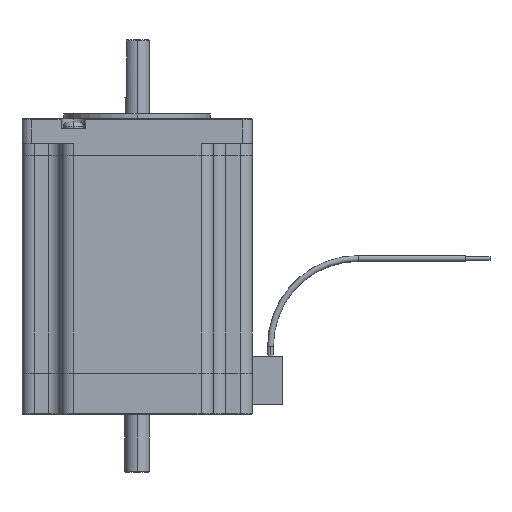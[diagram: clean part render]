
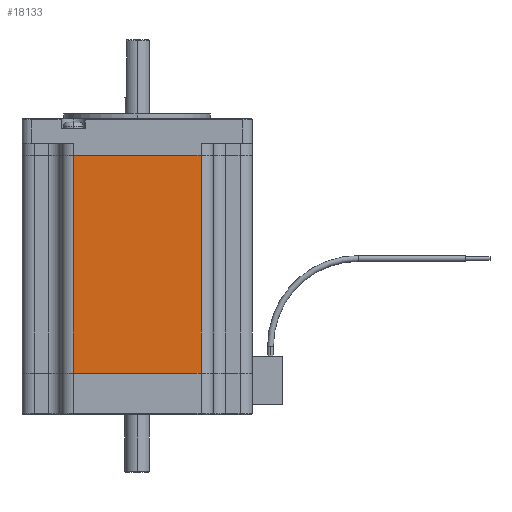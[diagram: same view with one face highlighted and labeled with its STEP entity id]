
A CAD part, left-side view. The second image highlights one B-rep face of the part: STEP entity #18133.
In plain terms, the highlighted planar face has unit normal (-1, 0, 0).
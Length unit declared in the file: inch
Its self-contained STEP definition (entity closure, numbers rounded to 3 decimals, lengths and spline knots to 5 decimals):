
#2256 = CARTESIAN_POINT ( 'NONE',  ( -1.179, 0.655, -0.375 ) ) ;
#2760 = DIRECTION ( 'NONE',  ( 0., 1., 0. ) ) ;
#2761 = VECTOR ( 'NONE', #2760, 39.37008 ) ;
#2762 = CARTESIAN_POINT ( 'NONE',  ( -1.179, -0.655, -0.375 ) ) ;
#2767 = CARTESIAN_POINT ( 'NONE',  ( -1.179, -0.655, -0.375 ) ) ;
#2771 = LINE ( 'NONE', #2762, #2761 ) ;
#7132 = CARTESIAN_POINT ( 'NONE',  ( -1.179, -0.655, -2.606 ) ) ;
#7151 = DIRECTION ( 'NONE',  ( 0., 0., 1. ) ) ;
#7152 = VECTOR ( 'NONE', #7151, 39.37008 ) ;
#7153 = LINE ( 'NONE', #7203, #7202 ) ;
#7157 = LINE ( 'NONE', #7159, #7152 ) ;
#7159 = CARTESIAN_POINT ( 'NONE',  ( -1.179, -0.655, -2.606 ) ) ;
#7201 = DIRECTION ( 'NONE',  ( 0., 1., 0. ) ) ;
#7202 = VECTOR ( 'NONE', #7201, 39.37008 ) ;
#7203 = CARTESIAN_POINT ( 'NONE',  ( -1.179, -0.655, -2.606 ) ) ;
#8980 = VERTEX_POINT ( 'NONE', #2256 ) ;
#8989 = EDGE_CURVE ( 'NONE', #8996, #8980, #2771, .T. ) ;
#8996 = VERTEX_POINT ( 'NONE', #2767 ) ;
#14218 = AXIS2_PLACEMENT_3D ( 'NONE', #14285, #14284, #14337 ) ;
#14284 = DIRECTION ( 'NONE',  ( 1., 0., 0. ) ) ;
#14285 = CARTESIAN_POINT ( 'NONE',  ( -1.179, -0.655, -2.606 ) ) ;
#14311 = FACE_OUTER_BOUND ( 'NONE', #18054, .T. ) ;
#14314 = PLANE ( 'NONE',  #14218 ) ;
#14337 = DIRECTION ( 'NONE',  ( 0., 1., 0. ) ) ;
#14805 = CARTESIAN_POINT ( 'NONE',  ( -1.179, 0.655, -2.606 ) ) ;
#14806 = LINE ( 'NONE', #14805, #14822 ) ;
#14822 = VECTOR ( 'NONE', #14864, 39.37008 ) ;
#14864 = DIRECTION ( 'NONE',  ( 0., 0., 1. ) ) ;
#14870 = CARTESIAN_POINT ( 'NONE',  ( -1.179, 0.655, -2.606 ) ) ;
#18052 = VERTEX_POINT ( 'NONE', #7132 ) ;
#18054 = EDGE_LOOP ( 'NONE', ( #18141, #18134, #18314, #18316 ) ) ;
#18056 = EDGE_CURVE ( 'NONE', #18052, #8996, #7157, .T. ) ;
#18057 = EDGE_CURVE ( 'NONE', #18052, #18315, #7153, .T. ) ;
#18133 = ADVANCED_FACE ( 'NONE', ( #14311 ), #14314, .F. ) ;
#18134 = ORIENTED_EDGE ( 'NONE', *, *, #18312, .F. ) ;
#18141 = ORIENTED_EDGE ( 'NONE', *, *, #8989, .T. ) ;
#18312 = EDGE_CURVE ( 'NONE', #18315, #8980, #14806, .T. ) ;
#18314 = ORIENTED_EDGE ( 'NONE', *, *, #18057, .F. ) ;
#18315 = VERTEX_POINT ( 'NONE', #14870 ) ;
#18316 = ORIENTED_EDGE ( 'NONE', *, *, #18056, .T. ) ;
